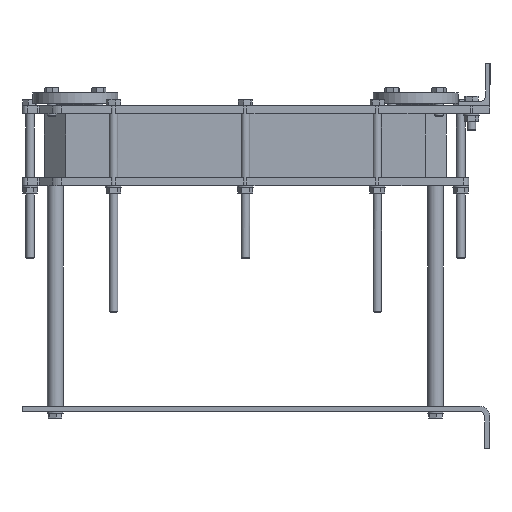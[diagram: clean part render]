
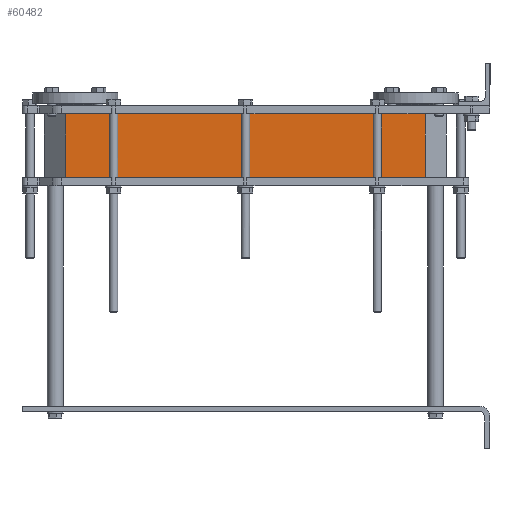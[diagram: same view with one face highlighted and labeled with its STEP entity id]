
A CAD part, left-side view. The second image highlights one B-rep face of the part: STEP entity #60482.
In plain terms, the highlighted planar face has unit normal (-1, 0, 0).
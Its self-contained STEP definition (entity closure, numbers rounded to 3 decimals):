
#2706 = DIRECTION ( 'NONE',  ( 0., 1., 0. ) ) ;
#8316 = CARTESIAN_POINT ( 'NONE',  ( 22., 122., -215. ) ) ;
#8780 = VECTOR ( 'NONE', #18281, 1000. ) ;
#13774 = EDGE_CURVE ( 'NONE', #90146, #55074, #79685, .T. ) ;
#17954 = CARTESIAN_POINT ( 'NONE',  ( 22., 798., -215. ) ) ;
#18281 = DIRECTION ( 'NONE',  ( 0., 1., 0. ) ) ;
#18897 = CARTESIAN_POINT ( 'NONE',  ( 22., 798., -215. ) ) ;
#24151 = DIRECTION ( 'NONE',  ( -1., 0., 0. ) ) ;
#24676 = FACE_OUTER_BOUND ( 'NONE', #40732, .T. ) ;
#25381 = CARTESIAN_POINT ( 'NONE',  ( 22., 122., -95. ) ) ;
#28301 = LINE ( 'NONE', #77429, #56774 ) ;
#28585 = DIRECTION ( 'NONE',  ( 0., 0., -1. ) ) ;
#31020 = ORIENTED_EDGE ( 'NONE', *, *, #56812, .F. ) ;
#32882 = CARTESIAN_POINT ( 'NONE',  ( 22., 798., -95. ) ) ;
#35915 = CARTESIAN_POINT ( 'NONE',  ( 22., 122., -95. ) ) ;
#38023 = EDGE_CURVE ( 'NONE', #55074, #93676, #38509, .T. ) ;
#38509 = LINE ( 'NONE', #18897, #8780 ) ;
#40500 = AXIS2_PLACEMENT_3D ( 'NONE', #53229, #24151, #2706 ) ;
#40522 = VECTOR ( 'NONE', #54930, 1000. ) ;
#40732 = EDGE_LOOP ( 'NONE', ( #31020, #52822, #49206, #89891 ) ) ;
#45826 = DIRECTION ( 'NONE',  ( 0., 0., -1. ) ) ;
#49206 = ORIENTED_EDGE ( 'NONE', *, *, #38023, .F. ) ;
#49934 = VERTEX_POINT ( 'NONE', #64767 ) ;
#50900 = EDGE_CURVE ( 'NONE', #49934, #93676, #28301, .T. ) ;
#52822 = ORIENTED_EDGE ( 'NONE', *, *, #50900, .T. ) ;
#53229 = CARTESIAN_POINT ( 'NONE',  ( 22., 122., -95. ) ) ;
#54930 = DIRECTION ( 'NONE',  ( 0., -1., 0. ) ) ;
#55074 = VERTEX_POINT ( 'NONE', #8316 ) ;
#56774 = VECTOR ( 'NONE', #28585, 1000. ) ;
#56812 = EDGE_CURVE ( 'NONE', #49934, #90146, #67840, .T. ) ;
#60185 = VECTOR ( 'NONE', #45826, 1000. ) ;
#60482 = ADVANCED_FACE ( 'NONE', ( #24676 ), #90248, .T. ) ;
#64767 = CARTESIAN_POINT ( 'NONE',  ( 22., 798., -95. ) ) ;
#67840 = LINE ( 'NONE', #32882, #40522 ) ;
#77429 = CARTESIAN_POINT ( 'NONE',  ( 22., 798., -95. ) ) ;
#79685 = LINE ( 'NONE', #35915, #60185 ) ;
#89891 = ORIENTED_EDGE ( 'NONE', *, *, #13774, .F. ) ;
#90146 = VERTEX_POINT ( 'NONE', #25381 ) ;
#90248 = PLANE ( 'NONE',  #40500 ) ;
#93676 = VERTEX_POINT ( 'NONE', #17954 ) ;
